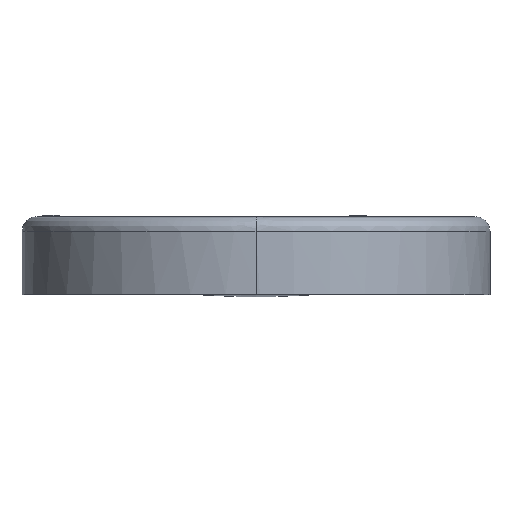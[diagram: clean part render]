
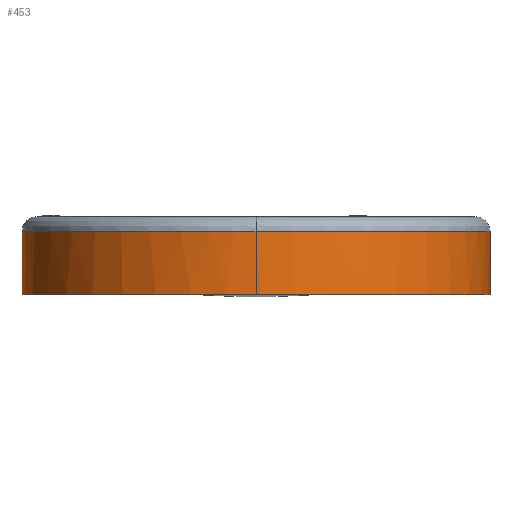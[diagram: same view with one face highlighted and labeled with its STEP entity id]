
A CAD part, left-side view. The second image highlights one B-rep face of the part: STEP entity #453.
In plain terms, the highlighted free-form (B-spline) face has degree [2, 1] with [9, 2] control points.
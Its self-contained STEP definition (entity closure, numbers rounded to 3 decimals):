
#453=ADVANCED_FACE('',(#938),#7940,.T.);
#938=FACE_OUTER_BOUND('',#1509,.T.);
#1509=EDGE_LOOP('',(#3076,#3077,#3078,#3079,#3080));
#3076=ORIENTED_EDGE('',*,*,#4996,.F.);
#3077=ORIENTED_EDGE('',*,*,#5002,.F.);
#3078=ORIENTED_EDGE('',*,*,#4991,.F.);
#3079=ORIENTED_EDGE('',*,*,#4998,.F.);
#3080=ORIENTED_EDGE('',*,*,#4999,.T.);
#4991=EDGE_CURVE('',#7260,#7257,#6504,.T.);
#4996=EDGE_CURVE('',#7263,#7264,#5826,.T.);
#4998=EDGE_CURVE('',#7265,#7260,#5827,.T.);
#4999=EDGE_CURVE('',#7265,#7264,#6508,.T.);
#5002=EDGE_CURVE('',#7257,#7263,#6511,.T.);
#5826=B_SPLINE_CURVE_WITH_KNOTS('',1,(#22211,#22212),.UNSPECIFIED.,.F.,
 .F.,(2,2),(0.,109.),.UNSPECIFIED.);
#5827=B_SPLINE_CURVE_WITH_KNOTS('',1,(#22218,#22219),.UNSPECIFIED.,.F.,
 .F.,(2,2),(0.,109.),.UNSPECIFIED.);
#6504=(
BOUNDED_CURVE()
B_SPLINE_CURVE(2,(#22196,#22197,#22198),.UNSPECIFIED.,.F.,.F.)
B_SPLINE_CURVE_WITH_KNOTS((3,3),(589.049,1178.097),
 .UNSPECIFIED.)
CURVE()
GEOMETRIC_REPRESENTATION_ITEM()
RATIONAL_B_SPLINE_CURVE((1.,0.707,1.))
REPRESENTATION_ITEM('')
);
#6508=(
BOUNDED_CURVE()
B_SPLINE_CURVE(2,(#22220,#22221,#22222,#22223,#22224),.UNSPECIFIED.,.F.,
 .F.)
B_SPLINE_CURVE_WITH_KNOTS((3,2,3),(0.,628.319,1256.637),
 .UNSPECIFIED.)
CURVE()
GEOMETRIC_REPRESENTATION_ITEM()
RATIONAL_B_SPLINE_CURVE((1.,0.707,1.,0.707,1.))
REPRESENTATION_ITEM('')
);
#6511=(
BOUNDED_CURVE()
B_SPLINE_CURVE(2,(#22235,#22236,#22237),.UNSPECIFIED.,.F.,.F.)
B_SPLINE_CURVE_WITH_KNOTS((3,3),(1178.097,1767.146),
 .UNSPECIFIED.)
CURVE()
GEOMETRIC_REPRESENTATION_ITEM()
RATIONAL_B_SPLINE_CURVE((1.,0.707,1.))
REPRESENTATION_ITEM('')
);
#7257=VERTEX_POINT('',#21743);
#7260=VERTEX_POINT('',#21746);
#7263=VERTEX_POINT('',#21749);
#7264=VERTEX_POINT('',#21750);
#7265=VERTEX_POINT('',#21751);
#7940=(
BOUNDED_SURFACE()
B_SPLINE_SURFACE(2,1,((#20118,#20119),(#20120,#20121),(#20122,#20123),(#20124,
#20125),(#20126,#20127),(#20128,#20129),(#20130,#20131),(#20132,#20133),
(#20134,#20135)),.UNSPECIFIED.,.T.,.F.,.F.)
B_SPLINE_SURFACE_WITH_KNOTS((3,2,2,2,3),(2,2),(0.,628.319,1256.637,
1884.956,2513.274),(0.,130.8),.UNSPECIFIED.)
GEOMETRIC_REPRESENTATION_ITEM()
RATIONAL_B_SPLINE_SURFACE(((1.,1.),(0.707,0.707),
(1.,1.),(0.707,0.707),(1.,1.),(0.707,
0.707),(1.,1.),(0.707,0.707),(1.,1.)))
REPRESENTATION_ITEM('')
SURFACE()
);
#20118=CARTESIAN_POINT('',(400.,-69.85,53.25));
#20119=CARTESIAN_POINT('',(400.,-69.85,-77.55));
#20120=CARTESIAN_POINT('',(400.,-469.85,53.25));
#20121=CARTESIAN_POINT('',(400.,-469.85,-77.55));
#20122=CARTESIAN_POINT('',(0.,-469.85,53.25));
#20123=CARTESIAN_POINT('',(0.,-469.85,-77.55));
#20124=CARTESIAN_POINT('',(-400.,-469.85,53.25));
#20125=CARTESIAN_POINT('',(-400.,-469.85,-77.55));
#20126=CARTESIAN_POINT('',(-400.,-69.85,53.25));
#20127=CARTESIAN_POINT('',(-400.,-69.85,-77.55));
#20128=CARTESIAN_POINT('',(-400.,330.15,53.25));
#20129=CARTESIAN_POINT('',(-400.,330.15,-77.55));
#20130=CARTESIAN_POINT('',(0.,330.15,53.25));
#20131=CARTESIAN_POINT('',(0.,330.15,-77.55));
#20132=CARTESIAN_POINT('',(400.,330.15,53.25));
#20133=CARTESIAN_POINT('',(400.,330.15,-77.55));
#20134=CARTESIAN_POINT('',(400.,-69.85,53.25));
#20135=CARTESIAN_POINT('',(400.,-69.85,-77.55));
#21743=CARTESIAN_POINT('',(-400.,-69.85,42.35));
#21746=CARTESIAN_POINT('',(0.,330.15,42.35));
#21749=CARTESIAN_POINT('',(0.,-469.85,42.35));
#21750=CARTESIAN_POINT('',(0.,-469.85,-66.65));
#21751=CARTESIAN_POINT('',(0.,330.15,-66.65));
#22196=CARTESIAN_POINT('',(0.,330.15,42.35));
#22197=CARTESIAN_POINT('',(-400.,330.15,42.35));
#22198=CARTESIAN_POINT('',(-400.,-69.85,42.35));
#22211=CARTESIAN_POINT('',(0.,-469.85,42.35));
#22212=CARTESIAN_POINT('',(0.,-469.85,-66.65));
#22218=CARTESIAN_POINT('',(0.,330.15,-66.65));
#22219=CARTESIAN_POINT('',(0.,330.15,42.35));
#22220=CARTESIAN_POINT('',(0.,330.15,-66.65));
#22221=CARTESIAN_POINT('',(-400.,330.15,-66.65));
#22222=CARTESIAN_POINT('',(-400.,-69.85,-66.65));
#22223=CARTESIAN_POINT('',(-400.,-469.85,-66.65));
#22224=CARTESIAN_POINT('',(0.,-469.85,-66.65));
#22235=CARTESIAN_POINT('',(-400.,-69.85,42.35));
#22236=CARTESIAN_POINT('',(-400.,-469.85,42.35));
#22237=CARTESIAN_POINT('',(0.,-469.85,42.35));
